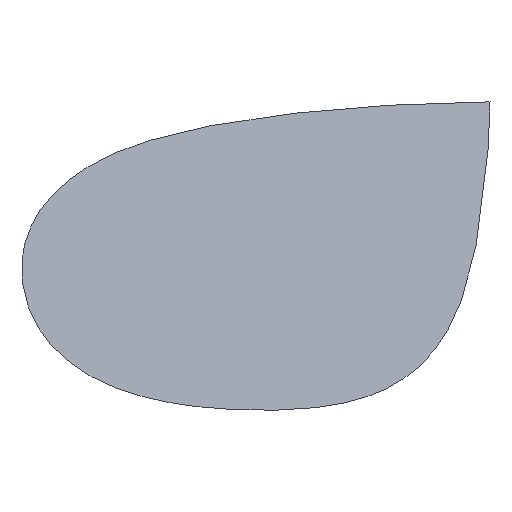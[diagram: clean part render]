
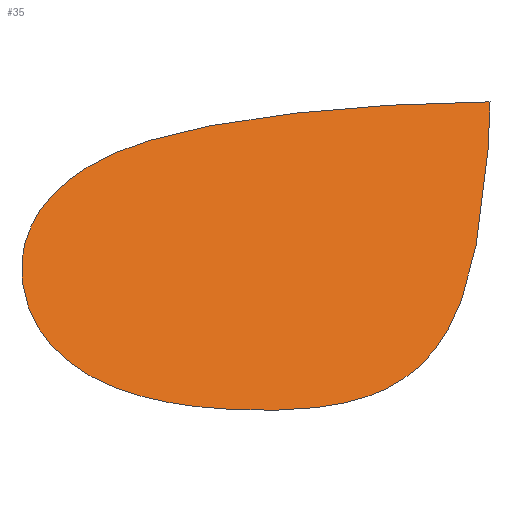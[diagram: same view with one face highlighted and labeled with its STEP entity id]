
A CAD part, isometric view. The second image highlights one B-rep face of the part: STEP entity #35.
In plain terms, the highlighted planar face has unit normal (0, 0, 1).
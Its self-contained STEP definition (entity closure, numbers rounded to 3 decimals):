
#1=CARTESIAN_POINT('',(10.,0.,0.));
#2=VERTEX_POINT('',#1);
#10=CARTESIAN_POINT('',(10.,0.,0.));
#11=CARTESIAN_POINT('',(10.,0.,0.));
#12=CARTESIAN_POINT('',(0.,10.,0.));
#13=CARTESIAN_POINT('',(-10.,0.,0.));
#14=CARTESIAN_POINT('',(-6.,-7.,0.));
#15=CARTESIAN_POINT('',(0.,-10.,0.));
#16=CARTESIAN_POINT('',(10.,0.,0.));
#17=CARTESIAN_POINT('',(20.,10.,0.));
#20=B_SPLINE_CURVE_WITH_KNOTS('unclamped closed cubic',3,
  (#10,#11,#12,#13,#14,#15,#16,#17),
  .UNSPECIFIED.,.T.,.F.,
  (2,2,1,1,1,1,1,1,1,1),
  (-2.,0.,1.,2.,3.,4.,5.,6.,7.,8.),
  .UNSPECIFIED.);
#21=EDGE_CURVE('',#2,#2,#20,.T.);
#22=ORIENTED_EDGE('',*,*,#21,.T.);
#23=EDGE_LOOP('closed cubic boundary',(#22));
#24=FACE_OUTER_BOUND('',#23,.T.);
#30=CARTESIAN_POINT('',(0.,0.,0.));
#31=DIRECTION('',(0.,0.,1.));
#32=DIRECTION('',(1.,0.,0.));
#33=AXIS2_PLACEMENT_3D('',#30,#31,#32);
#34=PLANE('',#33);
#35=ADVANCED_FACE('unclamped closed curve face',(#24),#34,.T.);
